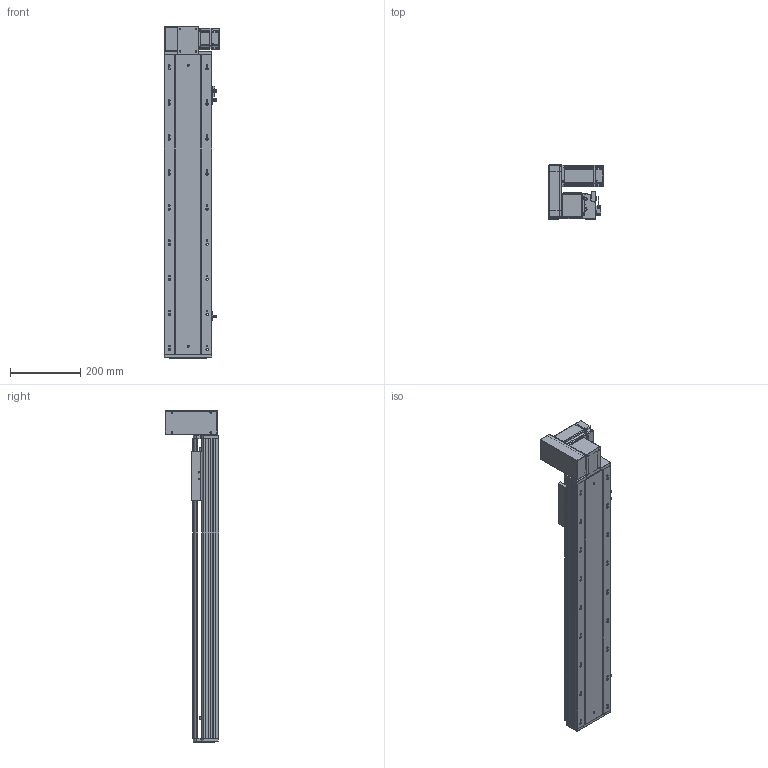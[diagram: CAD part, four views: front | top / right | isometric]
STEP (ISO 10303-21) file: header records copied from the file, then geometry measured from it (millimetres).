
FILE_DESCRIPTION (( 'STEP AP203' ), '1' );
FILE_NAME ('RY140-T-300-UL.SLDASM_600.step', '2021-03-01T07:43:16', ( '盈信电脑' ), ( '东莞市道滘镇水果街19号' ), 'SwSTEP 2.0', 'SolidWorks 2012', '' );
FILE_SCHEMA (( 'CONFIG_CONTROL_DESIGN' ));
Length unit declared in the file: millimetre
Products named in the file (18): RY120-T蹟翐M4; 滅袉蝶18-10; RY140-T萇儂欶; RY120-T主同步轮轴承压盖; 侂狟400W侜督萇儂; 15; RY140-T萇儂假蚾啣; RY120-T肮祭湍揤踡輸1; RY140-T翋肮祭謫盓傅釱; RY120外置感应片(140共用）; RY120-T肮祭湍揤踡輸2; 覜茼ん672; RY140綴裔啣; RY140-T-300-DL倰第奻裔啣_600; RY140肮祭謫臏賑輸; RY140-T-300-DL倰第菁釱_600; RY140-T-300-UL.SLDASM_600; RY140-T翋肮謫裔啣
Assembly tree (23 placements, depth 3):
  RY140-T-300-UL.SLDASM_600
    RY140-T-300-DL倰第菁釱_600
    RY140肮祭謫臏賑輸
    RY140-T-300-DL倰第奻裔啣_600
    RY140綴裔啣
    覜茼ん672  x3
    RY120外置感应片(140共用）
    RY120-T肮祭湍揤踡輸2
    RY120-T肮祭湍揤踡輸1
    RY140-T翋肮祭謫盓傅釱
    RY140-T萇儂假蚾啣
    侂狟400W侜督萇儂
      15
    RY120-T主同步轮轴承压盖
    RY120-T蹟翐M4  x4
    RY140-T萇儂欶
    滅袉蝶18-10  x2
    RY140-T翋肮謫裔啣
Bounding box: 157 x 152.5 x 946 mm (x, y, z)
Volume: 3035020.7 mm3; surface area: 1134409.8 mm2
Topology: 22 solids, 22 shells, 2651 faces, 7289 edges, 4696 vertices
Faces by surface type: plane 1385, cylinder 972, cone 194, bspline 100
Entity records: 84387 total; most frequent: CARTESIAN_POINT 20749, ORIENTED_EDGE 13114, DIRECTION 12381, EDGE_CURVE 6557, VERTEX_POINT 4295, LINE 4189, VECTOR 4189, AXIS2_PLACEMENT_3D 4096
